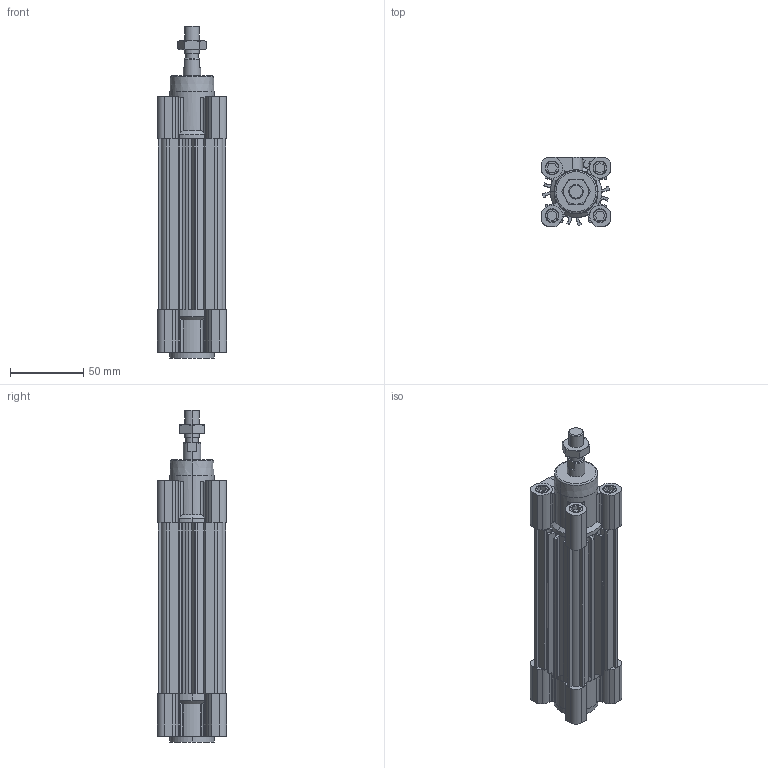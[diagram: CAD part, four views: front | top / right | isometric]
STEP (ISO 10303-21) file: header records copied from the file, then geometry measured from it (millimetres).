
FILE_DESCRIPTION (( 'STEP AP214' ), '1' );
FILE_NAME ('CP96SDB32-80C.step.step', '2020-10-22T11:08:42', ( '' ), ( '' ), 'SwSTEP 2.0', 'SolidWorks 2020', '' );
FILE_SCHEMA (( 'AUTOMOTIVE_DESIGN' ));
Length unit declared in the file: millimetre
Products named in the file (7): CP96SDB32-80C.step_Rod_Nut_10x1.25; CP96SDB32-80C.step_32_Head_Cover_32; CP96SDB32-80C.step_CP96_Cylinder_32; CP96SDB32-80C.step_32_Rod_Cover; CP96SDB32-80C.step; CP96SDB32-80C.step_Tie-rod_32; CP96SDB32-80C.step_C96_Rod_32
Assembly tree (9 placements, depth 2):
  CP96SDB32-80C.step
    CP96SDB32-80C.step_CP96_Cylinder_32
    CP96SDB32-80C.step_32_Rod_Cover
    CP96SDB32-80C.step_32_Head_Cover_32
    CP96SDB32-80C.step_Tie-rod_32  x4
    CP96SDB32-80C.step_C96_Rod_32
    CP96SDB32-80C.step_Rod_Nut_10x1.25
Bounding box: 47 x 47 x 226 mm (x, y, z)
Volume: 255901.1 mm3; surface area: 110746.3 mm2
Topology: 9 solids, 9 shells, 514 faces, 1329 edges, 865 vertices
Faces by surface type: plane 262, cylinder 186, cone 64, torus 2
Entity records: 13986 total; most frequent: CARTESIAN_POINT 2720, DIRECTION 2334, ORIENTED_EDGE 2278, EDGE_CURVE 1139, AXIS2_PLACEMENT_3D 821, VERTEX_POINT 745, LINE 692, VECTOR 692
